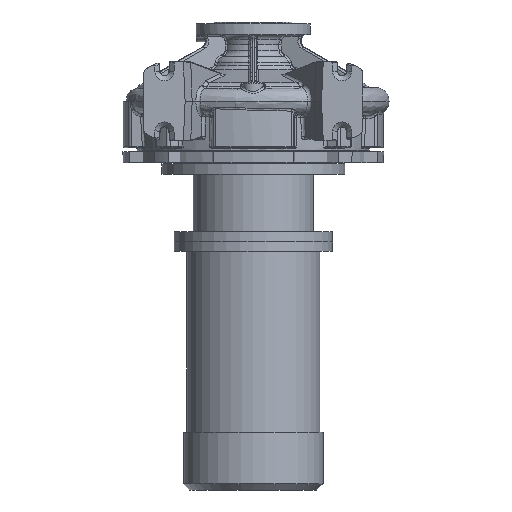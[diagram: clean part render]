
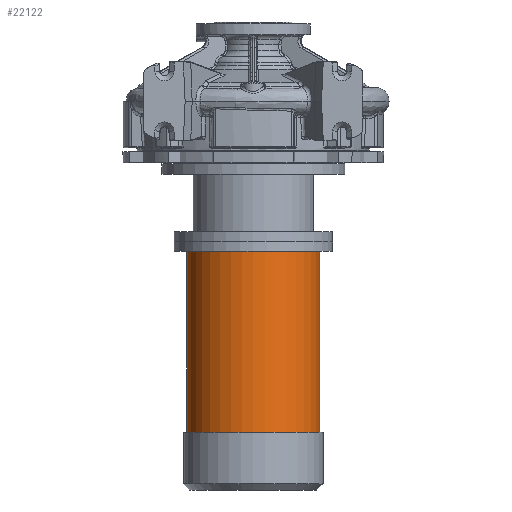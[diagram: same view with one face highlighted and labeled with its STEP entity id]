
A CAD part, front view. The second image highlights one B-rep face of the part: STEP entity #22122.
In plain terms, the highlighted cylindrical face has radius 105 mm (diameter 210 mm), a partial arc.
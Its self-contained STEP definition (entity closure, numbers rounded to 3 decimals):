
#373 = VECTOR ( 'NONE', #5669, 1000. ) ;
#2335 = DIRECTION ( 'NONE',  ( -1., 0., 0. ) ) ;
#4950 = AXIS2_PLACEMENT_3D ( 'NONE', #33185, #42449, #94909 ) ;
#5669 = DIRECTION ( 'NONE',  ( 0., 0., -1. ) ) ;
#6061 = CARTESIAN_POINT ( 'NONE',  ( -105., 0., -612.8 ) ) ;
#7466 = CYLINDRICAL_SURFACE ( 'NONE', #43600, 105. ) ;
#7734 = EDGE_CURVE ( 'NONE', #79325, #69884, #10097, .T. ) ;
#10097 = CIRCLE ( 'NONE', #35428, 105. ) ;
#20134 = CARTESIAN_POINT ( 'NONE',  ( -105., 0., -236.8 ) ) ;
#20567 = CARTESIAN_POINT ( 'NONE',  ( -105., 0., -521.8 ) ) ;
#22122 = ADVANCED_FACE ( 'NONE', ( #112436 ), #7466, .T. ) ;
#24720 = CARTESIAN_POINT ( 'NONE',  ( 105., 0., -521.8 ) ) ;
#31560 = EDGE_CURVE ( 'NONE', #79325, #108675, #60583, .T. ) ;
#32972 = ORIENTED_EDGE ( 'NONE', *, *, #73956, .T. ) ;
#33185 = CARTESIAN_POINT ( 'NONE',  ( 0., 0., -521.8 ) ) ;
#35428 = AXIS2_PLACEMENT_3D ( 'NONE', #97560, #96406, #43583 ) ;
#35764 = VECTOR ( 'NONE', #70736, 1000. ) ;
#42449 = DIRECTION ( 'NONE',  ( 0., 0., -1. ) ) ;
#42989 = CARTESIAN_POINT ( 'NONE',  ( 105., 0., -236.8 ) ) ;
#43401 = EDGE_LOOP ( 'NONE', ( #65975, #94365, #32972, #78935 ) ) ;
#43583 = DIRECTION ( 'NONE',  ( -1., 0., 0. ) ) ;
#43600 = AXIS2_PLACEMENT_3D ( 'NONE', #91076, #101112, #2335 ) ;
#47372 = LINE ( 'NONE', #6061, #373 ) ;
#60583 = LINE ( 'NONE', #79951, #35764 ) ;
#65975 = ORIENTED_EDGE ( 'NONE', *, *, #31560, .F. ) ;
#69884 = VERTEX_POINT ( 'NONE', #20134 ) ;
#70736 = DIRECTION ( 'NONE',  ( 0., 0., -1. ) ) ;
#73956 = EDGE_CURVE ( 'NONE', #69884, #79118, #47372, .T. ) ;
#78734 = CIRCLE ( 'NONE', #4950, 105. ) ;
#78935 = ORIENTED_EDGE ( 'NONE', *, *, #100165, .F. ) ;
#79118 = VERTEX_POINT ( 'NONE', #20567 ) ;
#79325 = VERTEX_POINT ( 'NONE', #42989 ) ;
#79951 = CARTESIAN_POINT ( 'NONE',  ( 105., 0., -612.8 ) ) ;
#91076 = CARTESIAN_POINT ( 'NONE',  ( 0., 0., -612.8 ) ) ;
#94365 = ORIENTED_EDGE ( 'NONE', *, *, #7734, .T. ) ;
#94909 = DIRECTION ( 'NONE',  ( -1., 0., 0. ) ) ;
#96406 = DIRECTION ( 'NONE',  ( 0., 0., -1. ) ) ;
#97560 = CARTESIAN_POINT ( 'NONE',  ( 0., 0., -236.8 ) ) ;
#100165 = EDGE_CURVE ( 'NONE', #108675, #79118, #78734, .T. ) ;
#101112 = DIRECTION ( 'NONE',  ( 0., 0., -1. ) ) ;
#108675 = VERTEX_POINT ( 'NONE', #24720 ) ;
#112436 = FACE_OUTER_BOUND ( 'NONE', #43401, .T. ) ;
